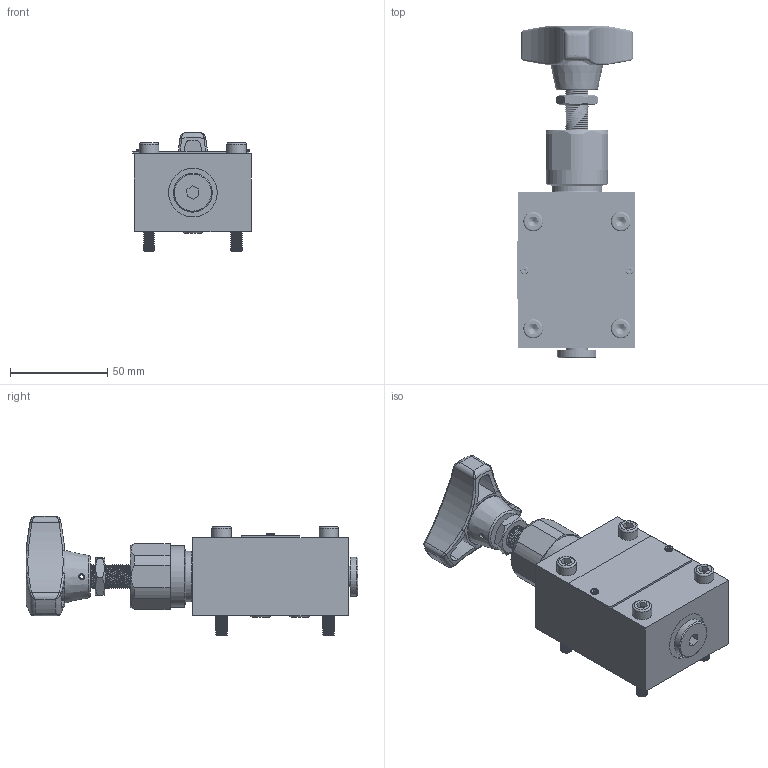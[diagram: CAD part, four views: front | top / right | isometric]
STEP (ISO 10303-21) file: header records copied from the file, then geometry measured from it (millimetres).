
FILE_DESCRIPTION(/* description */ (''),/* implementation_level */ '2;1');
FILE_NAME(/* name */ 'DBDH6P.stp',/* time_stamp */ '2024-04-24T16:09:34+08:00',/* author */ (''),/* organization */ (''),/* preprocessor_version */ 'ST-DEVELOPER v16.7',/* originating_system */ 'SIEMENS PLM Software NX 12.0',/* authorisation */ '');
FILE_SCHEMA (('AUTOMOTIVE_DESIGN { 1 0 10303 214 3 1 1 1 }'));
Products named in the file (1): DBDH6P
Bounding box: 60.9 x 170.5 x 61.27 mm (x, y, z)
Volume: 75679.5 mm3; surface area: 79890.8 mm2
Topology: 29 solids, 30 shells, 814 faces, 1970 edges, 1213 vertices
Faces by surface type: plane 359, cylinder 258, cone 75, bspline 75, torus 38, extrusion 8, sphere 1
Full cylindrical faces by diameter (mm): 1 x3, 1.5 x2, 1.8 x2, 1.9 x2, 2 x3, 2.5 x1, 3 x6, 3.1 x2, 3.3 x1, 4 x2, 4.4 x2, 4.7 x4, 4.709 x1, 5.1 x4, 5.2 x1, 5.209 x1, 5.4 x2, 5.5 x1, 6 x99, 6.5 x4, 6.8 x1, 7.8 x2, 10 x9, 10.2 x1, 11 x3, 15 x3, 15.3 x1, 16 x1, 16.5 x3, 17.28 x1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
Entity records: 65961 total; most frequent: CARTESIAN_POINT 51419, ORIENTED_EDGE 2776, DIRECTION 2754, EDGE_CURVE 1388, AXIS2_PLACEMENT_3D 1131, EDGE_LOOP 973, VERTEX_POINT 950, ADVANCED_FACE 715
